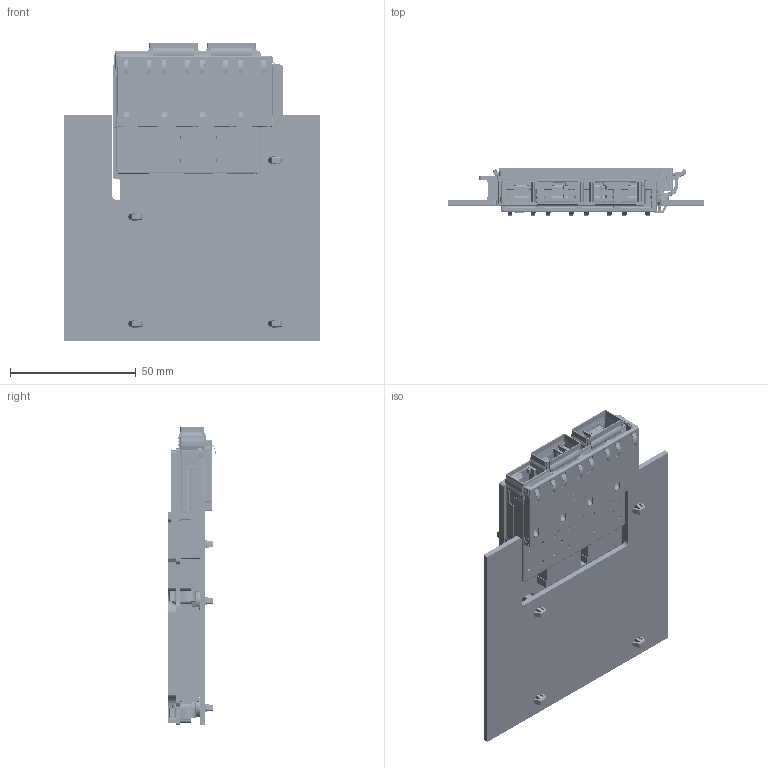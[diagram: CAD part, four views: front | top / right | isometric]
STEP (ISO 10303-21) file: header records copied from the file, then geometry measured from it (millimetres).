
FILE_DESCRIPTION((''),'2;1');
FILE_NAME('M1-SUPERSET-TYPE-1_ASM','2015-11-30T',('95030616'),(''),'PRO/ENGINEER BY PARAMETRIC TECHNOLOGY CORPORATION, 2013040','PRO/ENGINEER BY PARAMETRIC TECHNOLOGY CORPORATION, 2013040','');
FILE_SCHEMA(('AUTOMOTIVE_DESIGN { 1 0 10303 214 1 1 1 1 }'));
Products named in the file (283): P1-OCP-2_0-BOARD_2; FCI-P61083-124X2XXX_2; F01-LED-EVERLIGHT; P1-BTM-KEEPOUT-2MM; P1-BTM-KEEPOUT-2_9MM; P1-TOP-KEEPOUT-4_5MM; P1-TOP-KEEPOUT-4_5MM-3; P1-TOP-KEEPOUT-4MM; P1-TOP-KEEPOUT-4MM-2; P1-TOP-KEEPOUT-7_5MM; 1X1STANDASM_ASM; SFP28-20150313; P1-MZ-2_0-BD-ASSY_1X4SFP_8MM_ASM; P2-OCP-2_0-BOARD_2; P2-BTM-KEEPOUT-2MM; P2-BTM-KEEPOUT-2_9MM; P2-TOP-KEEPOUT-4_5MM; P2-TOP-KEEPOUT-4_5MM-3; P2-TOP-KEEPOUT-4MM; P2-TOP-KEEPOUT-4MM-2; P2-TOP-KEEPOUT-7_5MM; M-U90-A111-1001-REVT1; M-FS1-E38-X0M0-X0-REVT1; P2-MZ-2_0-BD-ASSY_1X4SFP_8MM_ASM; P3-OCP-2_0-BOARD_2; S61083-121X0XXX; FCI_61083_084402LF_LEOPARD_E1; P3-BTM-KEEPOUT-2MM; P3-BTM-KEEPOUT-2_9MM; P3-TOP-KEEPOUT-4_5MM; P3-TOP-KEEPOUT-4_5MM-3; P3-TOP-KEEPOUT-4MM; P3-TOP-KEEPOUT-4MM-2; P3-TOP-KEEPOUT-7_5MM; P3-MZ-2_0-BD-ASSY_1X4SFP_8MM_ASM; P4-OCP-2_0-BOARD_2; P4-BTM-KEEPOUT-2MM; P4-BTM-KEEPOUT-2_9MM; P4-TOP-KEEPOUT-4_5MM; P4-TOP-KEEPOUT-4_5MM-3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
Assembly tree (400 placements, depth 7):
  M1-SUPERSET-TYPE-1_ASM
    P1-MZ-2_0-BD-ASSY_1X4SFP_8MM_ASM
      P1-OCP-2_0-BOARD_2
      FCI-P61083-124X2XXX_2
      F01-LED-EVERLIGHT  x4
      P1-BTM-KEEPOUT-2MM
      P1-BTM-KEEPOUT-2_9MM
      P1-TOP-KEEPOUT-4_5MM
      P1-TOP-KEEPOUT-4_5MM-3
      P1-TOP-KEEPOUT-4MM
      P1-TOP-KEEPOUT-4MM-2
      P1-TOP-KEEPOUT-7_5MM
      1X1STANDASM_ASM  x2
      SFP28-20150313  x2
    P2-MZ-2_0-BD-ASSY_1X4SFP_8MM_ASM
      P2-OCP-2_0-BOARD_2
      F01-LED-EVERLIGHT  x4
      FCI-P61083-124X2XXX_2
      P2-BTM-KEEPOUT-2MM
      P2-BTM-KEEPOUT-2_9MM
      P2-TOP-KEEPOUT-4_5MM
      P2-TOP-KEEPOUT-4_5MM-3
      P2-TOP-KEEPOUT-4MM
      P2-TOP-KEEPOUT-4MM-2
      P2-TOP-KEEPOUT-7_5MM
      M-U90-A111-1001-REVT1  x2
      M-FS1-E38-X0M0-X0-REVT1  x2
    P3-MZ-2_0-BD-ASSY_1X4SFP_8MM_ASM
      P3-OCP-2_0-BOARD_2
      F01-LED-EVERLIGHT  x4
      S61083-121X0XXX
      FCI-P61083-124X2XXX_2
      FCI_61083_084402LF_LEOPARD_E1
      P3-BTM-KEEPOUT-2MM
      P3-BTM-KEEPOUT-2_9MM
      P3-TOP-KEEPOUT-4_5MM
      P3-TOP-KEEPOUT-4_5MM-3
      P3-TOP-KEEPOUT-4MM
      P3-TOP-KEEPOUT-4MM-2
      P3-TOP-KEEPOUT-7_5MM
      M-U90-A111-1001-REVT1  x2
      M-FS1-E38-X0M0-X0-REVT1  x2
    P4-MZ-2_0-BD-ASSY_1X4SFP_8MM_ASM
      P4-OCP-2_0-BOARD_2
      F01-LED-EVERLIGHT  x4
      FCI-P61083-124X2XXX_2
      FCI_61083_084402LF_LEOPARD_E1
      P4-BTM-KEEPOUT-2MM
      P4-BTM-KEEPOUT-2_9MM
      P4-TOP-KEEPOUT-4_5MM
      P4-TOP-KEEPOUT-4_5MM-3
      P4-TOP-KEEPOUT-4MM
      P4-TOP-KEEPOUT-4MM-2
      P4-TOP-KEEPOUT-7_5MM
      M-U95-T111-1001-REVT1  x2
      M-FS1-Z38-X0Z6-10-REVG1  x2
    K2-MZ-2_0-BD-ASSY_1X4SFP_8MM_ASM
      K2-OCP-2_0-BOARD_2
      FCI-P61083-124X2XXX_2
      F01-LED-EVERLIGHT  x8
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Bounding box: 101.72 x 18.77 x 118.74 mm (x, y, z)
Surface area: 422386.3 mm2
Topology: 349 solids, 377 shells, 49472 faces, 138991 edges, 88632 vertices
Faces by surface type: plane 41219, cylinder 7165, bspline 579, cone 290, sphere 165, torus 54
Entity records: 909011 total; most frequent: CARTESIAN_POINT 162252, ORIENTED_EDGE 139094, DIRECTION 127458, EDGE_CURVE 69547, VECTOR 60016, LINE 60016, VERTEX_POINT 44552, AXIS2_PLACEMENT_3D 33721
